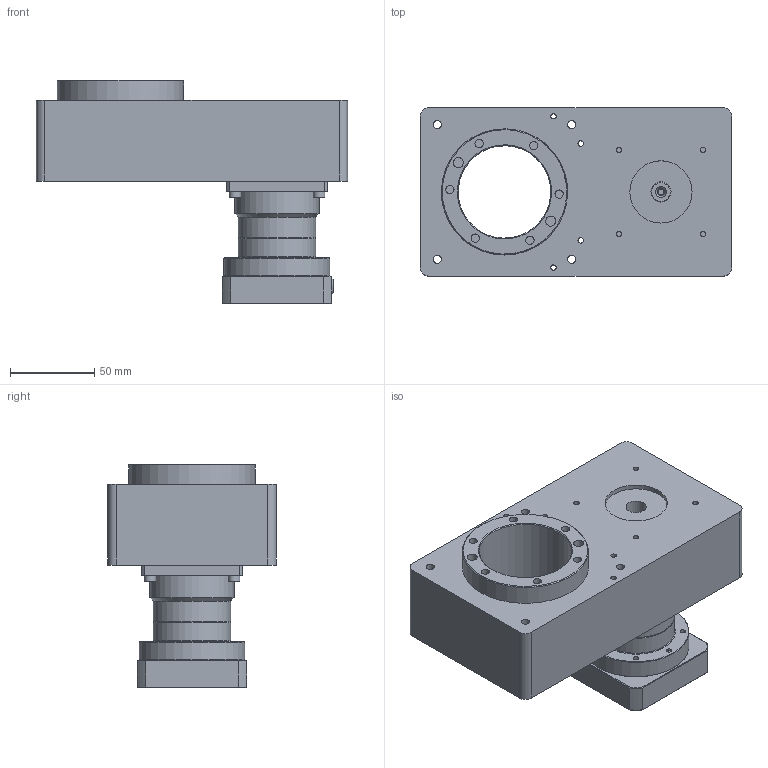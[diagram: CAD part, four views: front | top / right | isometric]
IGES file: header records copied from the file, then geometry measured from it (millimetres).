
Global section: file name: No Iges File Name specified; native system: Autodesk Inventor 2012; preprocessor: AutoDesk Inventor Iges Exporter R2012; author: disegnatore3; date: 20170117.095201; units: millimetre
Bounding box: 185 x 100 x 133 mm (x, y, z)
Volume: 946885.3 mm3; surface area: 143080 mm2
Topology: 17 solids, 17 shells, 500 faces, 1041 edges, 672 vertices
Faces by surface type: plane 225, revolution 176, cylinder 46, cone 39, torus 14
Full cylindrical faces by diameter (mm): 3 x1, 4 x12, 5.5 x1, 7 x12, 12 x1, 14 x1, 35 x1, 46 x2, 50 x1, 63 x1, 75 x1
